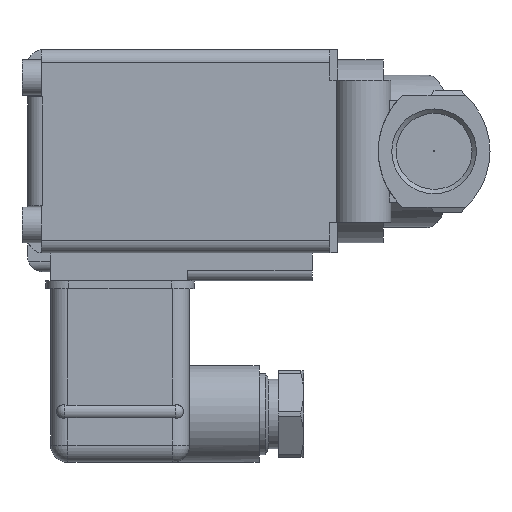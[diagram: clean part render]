
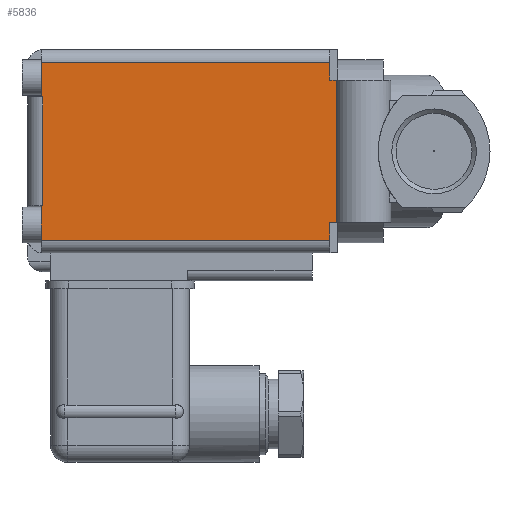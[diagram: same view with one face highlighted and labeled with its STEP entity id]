
A CAD part, left-side view. The second image highlights one B-rep face of the part: STEP entity #5836.
In plain terms, the highlighted planar face has unit normal (-1, 0, 0).
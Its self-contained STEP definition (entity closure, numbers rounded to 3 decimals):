
#460=ORIENTED_EDGE('',*,*,#1671,.T.);
#461=ORIENTED_EDGE('',*,*,#1672,.T.);
#462=ORIENTED_EDGE('',*,*,#1673,.T.);
#463=ORIENTED_EDGE('',*,*,#1674,.T.);
#464=ORIENTED_EDGE('',*,*,#1675,.F.);
#465=ORIENTED_EDGE('',*,*,#1676,.T.);
#466=ORIENTED_EDGE('',*,*,#1677,.F.);
#467=ORIENTED_EDGE('',*,*,#1678,.F.);
#468=ORIENTED_EDGE('',*,*,#1679,.F.);
#469=ORIENTED_EDGE('',*,*,#1680,.F.);
#470=ORIENTED_EDGE('',*,*,#1681,.F.);
#471=ORIENTED_EDGE('',*,*,#1682,.F.);
#1671=EDGE_CURVE('',#2263,#2264,#2637,.T.);
#1672=EDGE_CURVE('',#2264,#2265,#2638,.T.);
#1673=EDGE_CURVE('',#2265,#2266,#2639,.T.);
#1674=EDGE_CURVE('',#2266,#2267,#2640,.T.);
#1675=EDGE_CURVE('',#2268,#2267,#2641,.T.);
#1676=EDGE_CURVE('',#2268,#2269,#2642,.T.);
#1677=EDGE_CURVE('',#2270,#2269,#2643,.T.);
#1678=EDGE_CURVE('',#2271,#2270,#2644,.T.);
#1679=EDGE_CURVE('',#2272,#2271,#2645,.T.);
#1680=EDGE_CURVE('',#2273,#2272,#2646,.T.);
#1681=EDGE_CURVE('',#2274,#2273,#2647,.T.);
#1682=EDGE_CURVE('',#2263,#2274,#2648,.T.);
#2263=VERTEX_POINT('',#8086);
#2264=VERTEX_POINT('',#8087);
#2265=VERTEX_POINT('',#8089);
#2266=VERTEX_POINT('',#8091);
#2267=VERTEX_POINT('',#8093);
#2268=VERTEX_POINT('',#8095);
#2269=VERTEX_POINT('',#8097);
#2270=VERTEX_POINT('',#8099);
#2271=VERTEX_POINT('',#8101);
#2272=VERTEX_POINT('',#8103);
#2273=VERTEX_POINT('',#8105);
#2274=VERTEX_POINT('',#8107);
#2637=LINE('',#8085,#3047);
#2638=LINE('',#8088,#3048);
#2639=LINE('',#8090,#3049);
#2640=LINE('',#8092,#3050);
#2641=LINE('',#8094,#3051);
#2642=LINE('',#8096,#3052);
#2643=LINE('',#8098,#3053);
#2644=LINE('',#8100,#3054);
#2645=LINE('',#8102,#3055);
#2646=LINE('',#8104,#3056);
#2647=LINE('',#8106,#3057);
#2648=LINE('',#8108,#3058);
#3047=VECTOR('',#6672,1000.);
#3048=VECTOR('',#6673,1000.);
#3049=VECTOR('',#6674,1000.);
#3050=VECTOR('',#6675,1000.);
#3051=VECTOR('',#6676,1000.);
#3052=VECTOR('',#6677,1000.);
#3053=VECTOR('',#6678,1000.);
#3054=VECTOR('',#6679,1000.);
#3055=VECTOR('',#6680,1000.);
#3056=VECTOR('',#6681,1000.);
#3057=VECTOR('',#6682,1000.);
#3058=VECTOR('',#6683,1000.);
#3409=EDGE_LOOP('',(#460,#461,#462,#463,#464,#465,#466,#467,#468,#469,#470,
#471));
#3691=FACE_BOUND('',#3409,.T.);
#3955=PLANE('',#6116);
#5836=ADVANCED_FACE('',(#3691),#3955,.T.);
#6116=AXIS2_PLACEMENT_3D('',#8084,#6670,#6671);
#6670=DIRECTION('',(-1.,0.,0.));
#6671=DIRECTION('',(0.,0.,1.));
#6672=DIRECTION('',(0.,1.,0.));
#6673=DIRECTION('',(0.,0.,-1.));
#6674=DIRECTION('',(0.,-1.,0.));
#6675=DIRECTION('',(0.,0.,-1.));
#6676=DIRECTION('',(0.,-1.,0.));
#6677=DIRECTION('',(0.,0.,-1.));
#6678=DIRECTION('',(0.,1.,0.));
#6679=DIRECTION('',(0.,0.,-1.));
#6680=DIRECTION('',(0.,1.,0.));
#6681=DIRECTION('',(0.,0.,-1.));
#6682=DIRECTION('',(0.,-1.,0.));
#6683=DIRECTION('',(0.,0.,-1.));
#8084=CARTESIAN_POINT('',(-20.,-5.,-20.));
#8085=CARTESIAN_POINT('',(-20.,-5.,17.5));
#8086=CARTESIAN_POINT('',(-20.,-3.5,17.5));
#8087=CARTESIAN_POINT('',(-20.,53.3,17.5));
#8088=CARTESIAN_POINT('',(-20.,53.3,-20.));
#8089=CARTESIAN_POINT('',(-20.,53.3,10.7));
#8090=CARTESIAN_POINT('',(-20.,58.,10.7));
#8091=CARTESIAN_POINT('',(-20.,53.,10.7));
#8092=CARTESIAN_POINT('',(-20.,53.,10.7));
#8093=CARTESIAN_POINT('',(-20.,53.,-10.7));
#8094=CARTESIAN_POINT('',(-20.,58.,-10.7));
#8095=CARTESIAN_POINT('',(-20.,53.3,-10.7));
#8096=CARTESIAN_POINT('',(-20.,53.3,-20.));
#8097=CARTESIAN_POINT('',(-20.,53.3,-17.5));
#8098=CARTESIAN_POINT('',(-20.,-5.,-17.5));
#8099=CARTESIAN_POINT('',(-20.,-3.5,-17.5));
#8100=CARTESIAN_POINT('',(-20.,-3.5,-20.));
#8101=CARTESIAN_POINT('',(-20.,-3.5,-14.));
#8102=CARTESIAN_POINT('',(-20.,-5.,-14.));
#8103=CARTESIAN_POINT('',(-20.,-4.708,-14.));
#8104=CARTESIAN_POINT('',(-20.,-4.708,14.));
#8105=CARTESIAN_POINT('',(-20.,-4.708,14.));
#8106=CARTESIAN_POINT('',(-20.,-5.,14.));
#8107=CARTESIAN_POINT('',(-20.,-3.5,14.));
#8108=CARTESIAN_POINT('',(-20.,-3.5,-20.));
